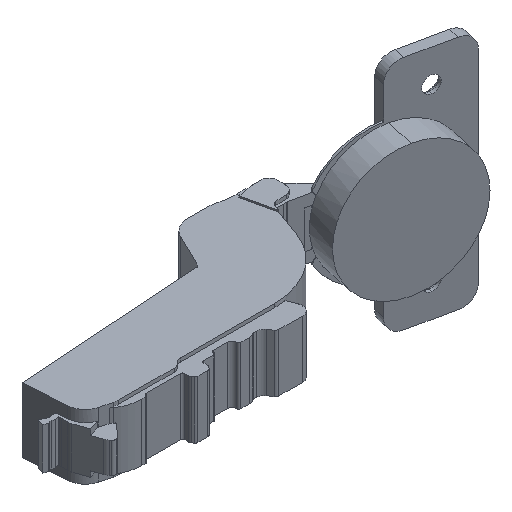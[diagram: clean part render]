
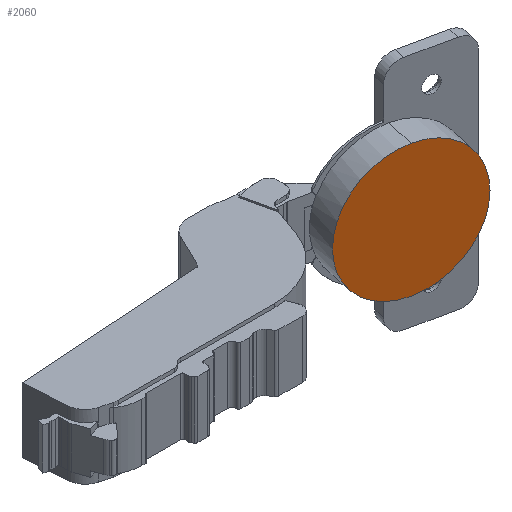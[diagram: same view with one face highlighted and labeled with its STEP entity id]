
A CAD part, isometric view. The second image highlights one B-rep face of the part: STEP entity #2060.
In plain terms, the highlighted planar face has unit normal (-0.212, -0.977, 0).
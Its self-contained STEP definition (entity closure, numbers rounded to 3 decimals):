
#381 = CARTESIAN_POINT ( 'NONE',  ( 19.279, 0.338, 0. ) ) ;
#483 = AXIS2_PLACEMENT_3D ( 'NONE', #381, #6521, #6453 ) ;
#672 = EDGE_CURVE ( 'NONE', #5296, #1543, #3891, .T. ) ;
#1063 = FACE_OUTER_BOUND ( 'NONE', #6219, .T. ) ;
#1234 = CARTESIAN_POINT ( 'NONE',  ( 19.279, 0.338, 17.4 ) ) ;
#1276 = ORIENTED_EDGE ( 'NONE', *, *, #672, .T. ) ;
#1360 = DIRECTION ( 'NONE',  ( -0.212, -0.977, 0. ) ) ;
#1389 = CARTESIAN_POINT ( 'NONE',  ( 19.279, 0.338, 0. ) ) ;
#1543 = VERTEX_POINT ( 'NONE', #6093 ) ;
#1876 = AXIS2_PLACEMENT_3D ( 'NONE', #3088, #6454, #1894 ) ;
#1894 = DIRECTION ( 'NONE',  ( 0., 0., 1. ) ) ;
#2060 = ADVANCED_FACE ( 'NONE', ( #1063 ), #3396, .F. ) ;
#2188 = CIRCLE ( 'NONE', #483, 17.4 ) ;
#3084 = ORIENTED_EDGE ( 'NONE', *, *, #6117, .T. ) ;
#3088 = CARTESIAN_POINT ( 'NONE',  ( 29.997, -1.982, -7.7 ) ) ;
#3394 = DIRECTION ( 'NONE',  ( 0.977, -0.212, 0. ) ) ;
#3396 = PLANE ( 'NONE',  #1876 ) ;
#3891 = CIRCLE ( 'NONE', #4646, 17.4 ) ;
#4646 = AXIS2_PLACEMENT_3D ( 'NONE', #1389, #1360, #3394 ) ;
#5296 = VERTEX_POINT ( 'NONE', #1234 ) ;
#6093 = CARTESIAN_POINT ( 'NONE',  ( 19.279, 0.338, -17.4 ) ) ;
#6117 = EDGE_CURVE ( 'NONE', #1543, #5296, #2188, .T. ) ;
#6219 = EDGE_LOOP ( 'NONE', ( #1276, #3084 ) ) ;
#6453 = DIRECTION ( 'NONE',  ( 0.977, -0.212, 0. ) ) ;
#6454 = DIRECTION ( 'NONE',  ( 0.212, 0.977, 0. ) ) ;
#6521 = DIRECTION ( 'NONE',  ( -0.212, -0.977, 0. ) ) ;
